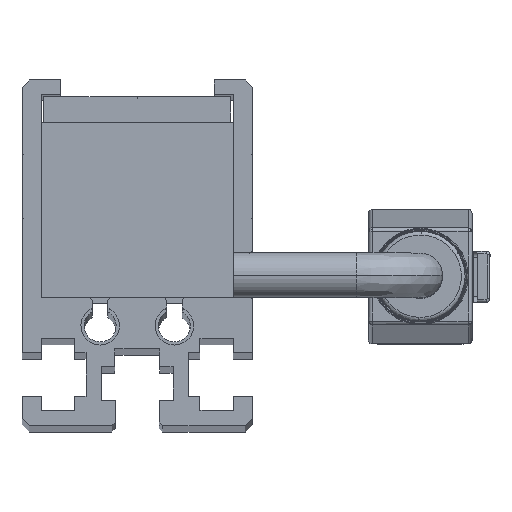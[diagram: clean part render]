
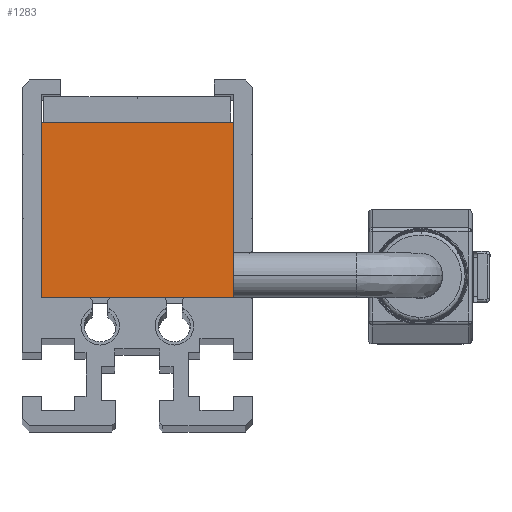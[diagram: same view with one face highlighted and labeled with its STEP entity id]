
A CAD part, top view. The second image highlights one B-rep face of the part: STEP entity #1283.
In plain terms, the highlighted planar face has unit normal (0, 0, 1).
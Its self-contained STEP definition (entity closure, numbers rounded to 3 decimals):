
#83 = LINE ( 'NONE', #8930, #13182 ) ;
#254 = DIRECTION ( 'NONE',  ( -1., 0., 0. ) ) ;
#1283 = ADVANCED_FACE ( 'NONE', ( #9947 ), #4107, .F. ) ;
#1802 = VECTOR ( 'NONE', #15889, 1000. ) ;
#1917 = CARTESIAN_POINT ( 'NONE',  ( 7.5, 13.7, 141. ) ) ;
#1965 = CARTESIAN_POINT ( 'NONE',  ( -7.5, 0., 141. ) ) ;
#2719 = CARTESIAN_POINT ( 'NONE',  ( 7.5, 0., 141. ) ) ;
#2818 = CARTESIAN_POINT ( 'NONE',  ( 7.5, 13.7, 141. ) ) ;
#3691 = EDGE_CURVE ( 'NONE', #13751, #13368, #8821, .T. ) ;
#4107 = PLANE ( 'NONE',  #16436 ) ;
#4422 = LINE ( 'NONE', #1917, #1802 ) ;
#4587 = VERTEX_POINT ( 'NONE', #2719 ) ;
#4637 = VECTOR ( 'NONE', #15656, 1000. ) ;
#5287 = ORIENTED_EDGE ( 'NONE', *, *, #13634, .F. ) ;
#5450 = VERTEX_POINT ( 'NONE', #10340 ) ;
#6568 = CARTESIAN_POINT ( 'NONE',  ( 7.5, 13.7, 141. ) ) ;
#7822 = EDGE_CURVE ( 'NONE', #5450, #13751, #16084, .T. ) ;
#8135 = EDGE_LOOP ( 'NONE', ( #15917, #5287, #14007, #10001 ) ) ;
#8821 = LINE ( 'NONE', #14561, #4637 ) ;
#8930 = CARTESIAN_POINT ( 'NONE',  ( 7.5, 0., 141. ) ) ;
#9947 = FACE_OUTER_BOUND ( 'NONE', #8135, .T. ) ;
#10001 = ORIENTED_EDGE ( 'NONE', *, *, #7822, .T. ) ;
#10309 = DIRECTION ( 'NONE',  ( -1., 0., 0. ) ) ;
#10340 = CARTESIAN_POINT ( 'NONE',  ( 7.5, 13.7, 141. ) ) ;
#11168 = VECTOR ( 'NONE', #254, 1000. ) ;
#11721 = DIRECTION ( 'NONE',  ( 0., 0., -1. ) ) ;
#12896 = CARTESIAN_POINT ( 'NONE',  ( -7.5, 13.7, 141. ) ) ;
#13182 = VECTOR ( 'NONE', #13877, 1000. ) ;
#13368 = VERTEX_POINT ( 'NONE', #1965 ) ;
#13634 = EDGE_CURVE ( 'NONE', #4587, #13368, #83, .T. ) ;
#13751 = VERTEX_POINT ( 'NONE', #12896 ) ;
#13877 = DIRECTION ( 'NONE',  ( -1., 0., 0. ) ) ;
#14007 = ORIENTED_EDGE ( 'NONE', *, *, #15470, .F. ) ;
#14561 = CARTESIAN_POINT ( 'NONE',  ( -7.5, 13.7, 141. ) ) ;
#15470 = EDGE_CURVE ( 'NONE', #5450, #4587, #4422, .T. ) ;
#15656 = DIRECTION ( 'NONE',  ( 0., -1., 0. ) ) ;
#15889 = DIRECTION ( 'NONE',  ( 0., -1., 0. ) ) ;
#15917 = ORIENTED_EDGE ( 'NONE', *, *, #3691, .T. ) ;
#16084 = LINE ( 'NONE', #6568, #11168 ) ;
#16436 = AXIS2_PLACEMENT_3D ( 'NONE', #2818, #11721, #10309 ) ;
